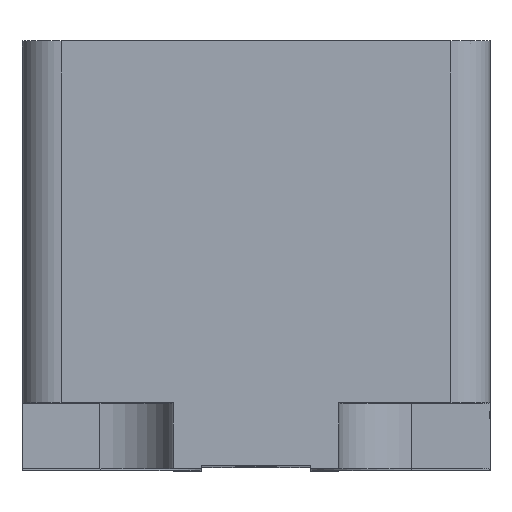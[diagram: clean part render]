
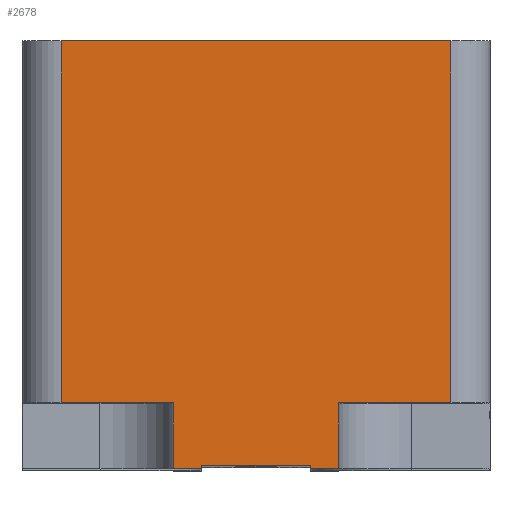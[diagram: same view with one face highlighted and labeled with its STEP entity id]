
A CAD part, top view. The second image highlights one B-rep face of the part: STEP entity #2678.
In plain terms, the highlighted planar face has unit normal (0, 0, 1).
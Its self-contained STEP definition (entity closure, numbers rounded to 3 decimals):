
#2173=CARTESIAN_POINT('',(3.5,0.2,50.0));
#2174=VERTEX_POINT('',#2173);
#2182=CARTESIAN_POINT('',(3.5,0.0,50.0));
#2183=VERTEX_POINT('',#2182);
#2190=CARTESIAN_POINT('',(3.5,0.2,50.0));
#2191=DIRECTION('',(0.0,-1.0,0.0));
#2192=VECTOR('',#2191,0.2);
#2193=LINE('',#2190,#2192);
#2194=EDGE_CURVE('',#2174,#2183,#2193,.T.);
#2204=CARTESIAN_POINT('',(-3.5,0.2,50.0));
#2205=VERTEX_POINT('',#2204);
#2214=CARTESIAN_POINT('',(-3.5,0.0,50.0));
#2215=VERTEX_POINT('',#2214);
#2216=CARTESIAN_POINT('',(-3.5,0.0,50.0));
#2217=DIRECTION('',(0.0,1.0,0.0));
#2218=VECTOR('',#2217,0.2);
#2219=LINE('',#2216,#2218);
#2220=EDGE_CURVE('',#2215,#2205,#2219,.T.);
#2549=CARTESIAN_POINT('',(-3.5,0.2,50.0));
#2550=DIRECTION('',(1.0,0.0,0.0));
#2551=VECTOR('',#2550,7.);
#2552=LINE('',#2549,#2551);
#2553=EDGE_CURVE('',#2205,#2174,#2552,.T.);
#2598=CARTESIAN_POINT('',(12.5,0.0,50.0));
#2599=DIRECTION('',(0.0,0.0,1.0));
#2600=DIRECTION('',(1.0,0.0,0.0));
#2601=AXIS2_PLACEMENT_3D('',#2598,#2599,#2600);
#2602=PLANE('',#2601);
#2603=ORIENTED_EDGE('',*,*,#2220,.T.);
#2604=ORIENTED_EDGE('',*,*,#2553,.T.);
#2605=ORIENTED_EDGE('',*,*,#2194,.T.);
#2606=CARTESIAN_POINT('',(5.3,0.0,50.0));
#2607=VERTEX_POINT('',#2606);
#2608=CARTESIAN_POINT('',(3.5,0.0,50.0));
#2609=DIRECTION('',(1.0,0.0,0.0));
#2610=VECTOR('',#2609,1.8);
#2611=LINE('',#2608,#2610);
#2612=EDGE_CURVE('',#2183,#2607,#2611,.T.);
#2613=ORIENTED_EDGE('',*,*,#2612,.T.);
#2614=CARTESIAN_POINT('',(5.3,4.2,50.0));
#2615=VERTEX_POINT('',#2614);
#2616=CARTESIAN_POINT('',(5.3,0.0,50.0));
#2617=DIRECTION('',(0.0,1.0,0.0));
#2618=VECTOR('',#2617,4.2);
#2619=LINE('',#2616,#2618);
#2620=EDGE_CURVE('',#2607,#2615,#2619,.T.);
#2621=ORIENTED_EDGE('',*,*,#2620,.T.);
#2622=CARTESIAN_POINT('',(12.5,4.2,50.0));
#2623=VERTEX_POINT('',#2622);
#2624=CARTESIAN_POINT('',(5.3,4.2,50.0));
#2625=DIRECTION('',(1.0,0.0,0.0));
#2626=VECTOR('',#2625,7.2);
#2627=LINE('',#2624,#2626);
#2628=EDGE_CURVE('',#2615,#2623,#2627,.T.);
#2629=ORIENTED_EDGE('',*,*,#2628,.T.);
#2630=CARTESIAN_POINT('',(12.5,27.4,50.0));
#2631=VERTEX_POINT('',#2630);
#2632=CARTESIAN_POINT('',(12.5,4.2,50.0));
#2633=DIRECTION('',(0.0,1.0,0.0));
#2634=VECTOR('',#2633,23.2);
#2635=LINE('',#2632,#2634);
#2636=EDGE_CURVE('',#2623,#2631,#2635,.T.);
#2637=ORIENTED_EDGE('',*,*,#2636,.T.);
#2638=CARTESIAN_POINT('',(-12.5,27.4,50.0));
#2639=VERTEX_POINT('',#2638);
#2640=CARTESIAN_POINT('',(12.5,27.4,50.0));
#2641=DIRECTION('',(-1.0,0.0,0.0));
#2642=VECTOR('',#2641,25.0);
#2643=LINE('',#2640,#2642);
#2644=EDGE_CURVE('',#2631,#2639,#2643,.T.);
#2645=ORIENTED_EDGE('',*,*,#2644,.T.);
#2646=CARTESIAN_POINT('',(-12.5,4.2,50.0));
#2647=VERTEX_POINT('',#2646);
#2648=CARTESIAN_POINT('',(-12.5,4.2,50.0));
#2649=DIRECTION('',(0.0,1.0,0.0));
#2650=VECTOR('',#2649,23.2);
#2651=LINE('',#2648,#2650);
#2652=EDGE_CURVE('',#2647,#2639,#2651,.T.);
#2653=ORIENTED_EDGE('',*,*,#2652,.F.);
#2654=CARTESIAN_POINT('',(-5.3,4.2,50.0));
#2655=VERTEX_POINT('',#2654);
#2656=CARTESIAN_POINT('',(-12.5,4.2,50.0));
#2657=DIRECTION('',(1.0,0.0,0.0));
#2658=VECTOR('',#2657,7.2);
#2659=LINE('',#2656,#2658);
#2660=EDGE_CURVE('',#2647,#2655,#2659,.T.);
#2661=ORIENTED_EDGE('',*,*,#2660,.T.);
#2662=CARTESIAN_POINT('',(-5.3,0.0,50.0));
#2663=VERTEX_POINT('',#2662);
#2664=CARTESIAN_POINT('',(-5.3,4.2,50.0));
#2665=DIRECTION('',(0.0,-1.0,0.0));
#2666=VECTOR('',#2665,4.2);
#2667=LINE('',#2664,#2666);
#2668=EDGE_CURVE('',#2655,#2663,#2667,.T.);
#2669=ORIENTED_EDGE('',*,*,#2668,.T.);
#2670=CARTESIAN_POINT('',(-5.3,0.0,50.0));
#2671=DIRECTION('',(1.0,0.0,0.0));
#2672=VECTOR('',#2671,1.8);
#2673=LINE('',#2670,#2672);
#2674=EDGE_CURVE('',#2663,#2215,#2673,.T.);
#2675=ORIENTED_EDGE('',*,*,#2674,.T.);
#2676=EDGE_LOOP('',(#2603,#2604,#2605,#2613,#2621,#2629,#2637,#2645,#2653,#2661,#2669,#2675));
#2677=FACE_OUTER_BOUND('',#2676,.T.);
#2678=ADVANCED_FACE('',(#2677),#2602,.T.);
